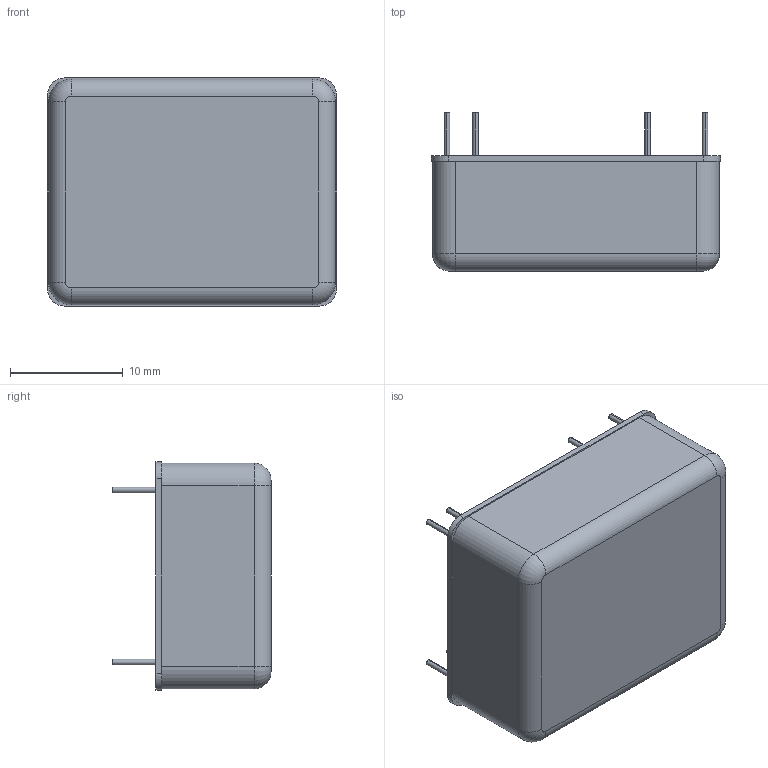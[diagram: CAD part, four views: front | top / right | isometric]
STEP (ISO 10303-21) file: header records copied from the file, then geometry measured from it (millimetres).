
FILE_DESCRIPTION (( 'STEP AP203' ), '1' );
FILE_NAME ('JCA03 Single 3D Assembly 260821.STEP', '2026-08-21T01:33:59', ( 'cincon' ), ( '' ), 'SwSTEP 2.0', 'SolidWorks 2020', '' );
FILE_SCHEMA (( 'CONFIG_CONTROL_DESIGN' ));
Length unit declared in the file: inch
Products named in the file (1): JCA03 Single 3D Assembly 260821
Bounding box: 25.6 x 14 x 20.2 mm (x, y, z)
Volume: 5073.5 mm3; surface area: 2515.3 mm2
Topology: 1 solids, 2 shells, 143 faces, 333 edges, 214 vertices
Faces by surface type: cylinder 69, plane 62, torus 12
Entity records: 4202 total; most frequent: DIRECTION 787, CARTESIAN_POINT 691, ORIENTED_EDGE 666, EDGE_CURVE 333, AXIS2_PLACEMENT_3D 310, VERTEX_POINT 214, VECTOR 167, LINE 167
